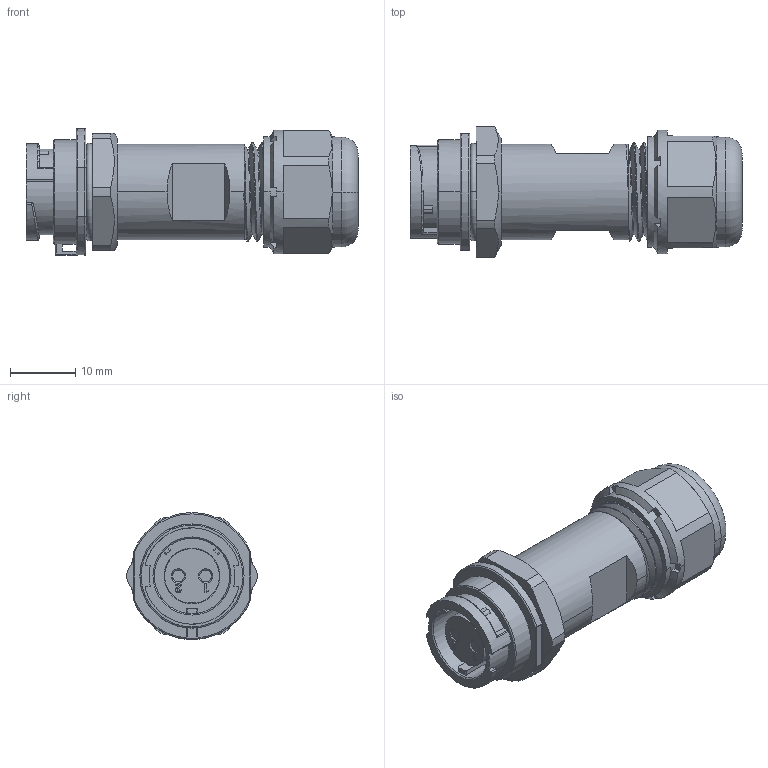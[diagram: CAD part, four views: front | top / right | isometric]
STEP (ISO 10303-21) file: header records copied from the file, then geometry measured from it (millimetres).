
FILE_DESCRIPTION((''),'2;1');
FILE_NAME('STP','2021-02-20T',('Administrator'),(''),'CREO PARAMETRIC BY PTC INC, 2016130','CREO PARAMETRIC BY PTC INC, 2016130','');
FILE_SCHEMA(('AUTOMOTIVE_DESIGN { 1 0 10303 214 1 1 1 1 }'));
Length unit declared in the file: millimetre
Products named in the file (1): STP
Bounding box: 51 x 19.99 x 19.5 mm (x, y, z)
Volume: 9327.1 mm3; surface area: 5276.7 mm2
Topology: 1 solids, 2 shells, 298 faces, 861 edges, 563 vertices
Faces by surface type: plane 111, cylinder 79, bspline 32, cone 27, extrusion 19, torus 18, sphere 12
Entity records: 15465 total; most frequent: CARTESIAN_POINT 7927, ORIENTED_EDGE 1698, DIRECTION 1396, EDGE_CURVE 849, VERTEX_POINT 563, AXIS2_PLACEMENT_3D 521, VECTOR 354, LINE 335
